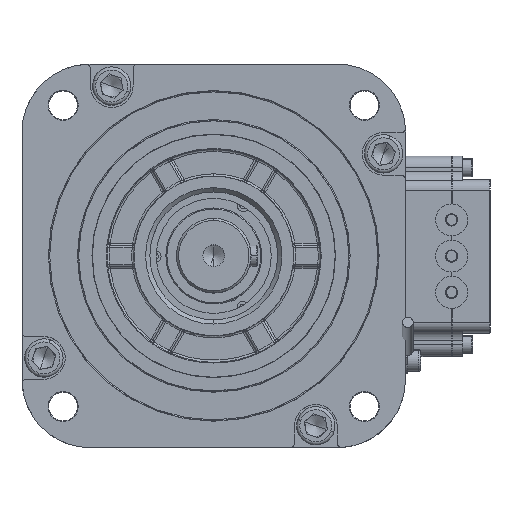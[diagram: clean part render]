
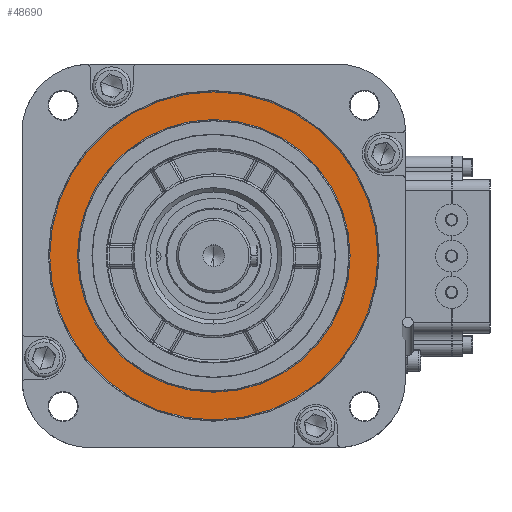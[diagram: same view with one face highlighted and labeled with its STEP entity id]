
A CAD part, top view. The second image highlights one B-rep face of the part: STEP entity #48690.
In plain terms, the highlighted planar face has unit normal (0, 0, 1).
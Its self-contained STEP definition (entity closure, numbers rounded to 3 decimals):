
#6 = ORIENTED_EDGE ( 'NONE', *, *, #99062, .T. ) ;
#1694 = AXIS2_PLACEMENT_3D ( 'NONE', #2110, #81889, #61640 ) ;
#2110 = CARTESIAN_POINT ( 'NONE',  ( -29.994, 0., 36.883 ) ) ;
#12146 = CIRCLE ( 'NONE', #1694, 64. ) ;
#13989 = EDGE_CURVE ( 'NONE', #54615, #21261, #117508, .T. ) ;
#16353 = CARTESIAN_POINT ( 'NONE',  ( -29.994, -64., 36.883 ) ) ;
#17936 = EDGE_LOOP ( 'NONE', ( #6, #79711 ) ) ;
#21261 = VERTEX_POINT ( 'NONE', #105778 ) ;
#22427 = CARTESIAN_POINT ( 'NONE',  ( -29.994, -77., 36.883 ) ) ;
#25984 = ORIENTED_EDGE ( 'NONE', *, *, #68586, .T. ) ;
#27453 = CARTESIAN_POINT ( 'NONE',  ( -29.994, 77., 36.883 ) ) ;
#27500 = DIRECTION ( 'NONE',  ( 0., 0., -1. ) ) ;
#29661 = AXIS2_PLACEMENT_3D ( 'NONE', #89930, #109596, #118773 ) ;
#30374 = AXIS2_PLACEMENT_3D ( 'NONE', #127206, #57863, #37572 ) ;
#37572 = DIRECTION ( 'NONE',  ( 0., 1., 0. ) ) ;
#38943 = FACE_BOUND ( 'NONE', #17936, .T. ) ;
#48690 = ADVANCED_FACE ( 'NONE', ( #128586, #38943 ), #50074, .F. ) ;
#50074 = PLANE ( 'NONE',  #29661 ) ;
#54615 = VERTEX_POINT ( 'NONE', #16353 ) ;
#57863 = DIRECTION ( 'NONE',  ( 0., 0., 1. ) ) ;
#61087 = AXIS2_PLACEMENT_3D ( 'NONE', #114530, #27500, #125641 ) ;
#61640 = DIRECTION ( 'NONE',  ( 0., 1., 0. ) ) ;
#64333 = DIRECTION ( 'NONE',  ( 0., 0., 1. ) ) ;
#64335 = EDGE_LOOP ( 'NONE', ( #129221, #25984 ) ) ;
#68586 = EDGE_CURVE ( 'NONE', #71374, #112870, #93010, .T. ) ;
#71374 = VERTEX_POINT ( 'NONE', #22427 ) ;
#79711 = ORIENTED_EDGE ( 'NONE', *, *, #13989, .T. ) ;
#81889 = DIRECTION ( 'NONE',  ( 0., 0., -1. ) ) ;
#85884 = CARTESIAN_POINT ( 'NONE',  ( -29.994, 0., 36.883 ) ) ;
#89930 = CARTESIAN_POINT ( 'NONE',  ( 47.506, 0., 36.883 ) ) ;
#93010 = CIRCLE ( 'NONE', #30374, 77. ) ;
#97713 = AXIS2_PLACEMENT_3D ( 'NONE', #85884, #64333, #114056 ) ;
#99062 = EDGE_CURVE ( 'NONE', #21261, #54615, #12146, .T. ) ;
#101910 = CIRCLE ( 'NONE', #97713, 77. ) ;
#105778 = CARTESIAN_POINT ( 'NONE',  ( -29.994, 64., 36.883 ) ) ;
#109596 = DIRECTION ( 'NONE',  ( 0., 0., -1. ) ) ;
#112870 = VERTEX_POINT ( 'NONE', #27453 ) ;
#114056 = DIRECTION ( 'NONE',  ( 0., 1., 0. ) ) ;
#114530 = CARTESIAN_POINT ( 'NONE',  ( -29.994, 0., 36.883 ) ) ;
#117508 = CIRCLE ( 'NONE', #61087, 64. ) ;
#118773 = DIRECTION ( 'NONE',  ( 0., 1., 0. ) ) ;
#124445 = EDGE_CURVE ( 'NONE', #112870, #71374, #101910, .T. ) ;
#125641 = DIRECTION ( 'NONE',  ( 0., 1., 0. ) ) ;
#127206 = CARTESIAN_POINT ( 'NONE',  ( -29.994, 0., 36.883 ) ) ;
#128586 = FACE_OUTER_BOUND ( 'NONE', #64335, .T. ) ;
#129221 = ORIENTED_EDGE ( 'NONE', *, *, #124445, .T. ) ;
